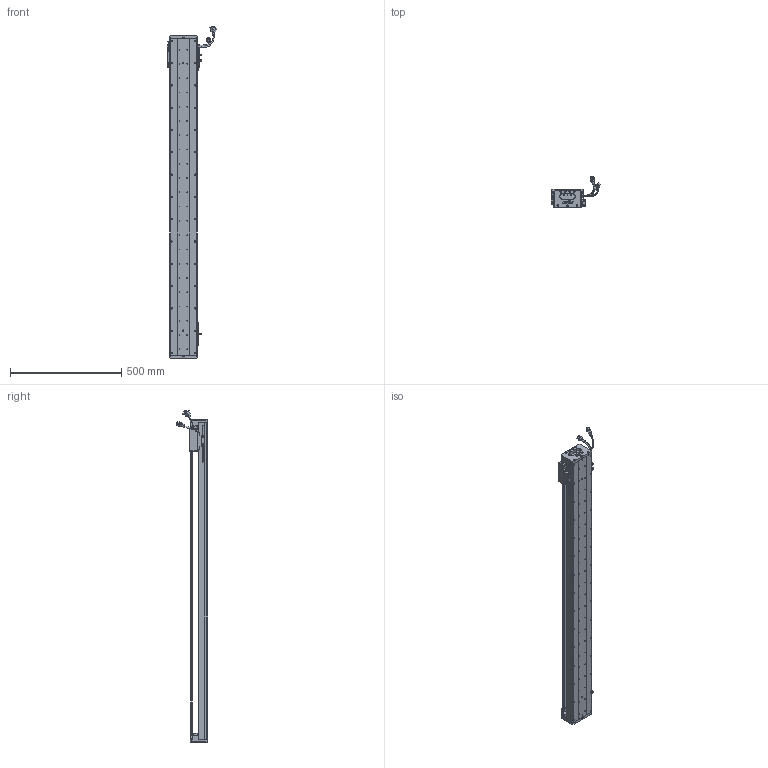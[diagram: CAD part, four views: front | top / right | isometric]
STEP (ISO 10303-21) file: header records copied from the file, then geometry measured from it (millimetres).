
FILE_DESCRIPTION (( 'STEP AP203' ), '1' );
FILE_NAME ('Z1-RY120D-1-L500-B-K.SLDASM_1250.step', '2021-05-17T03:46:52', ( '盈信电脑' ), ( '东莞市道滘镇水果街19号' ), 'SwSTEP 2.0', 'SolidWorks 2016', '' );
FILE_SCHEMA (( 'CONFIG_CONTROL_DESIGN' ));
Length unit declared in the file: millimetre
Products named in the file (37): PBU_SHEET; 140蚥薯蝶輸; SCALE-Part-1; HOLDER0; Z1-RY120D-1-L500-B-K.SLDASM_1250; HARNESS-Part-1; COVER-Part-1; PSLH080_PSLF2; Z1-RY120-500-倰第菁釱_1250; Z1-RY120铝滑块（21款）; 140雄赽晤鎢ん堤盄; RY100FB-遵嫖萇覜茼え; LABEL-Part-1; COVER; SCALE; SHIELDPLATE; SCREW-M1.7; 120-Z-臏賑輸盄裔(21遴); Z-RY120D詩湍狟揤裔; SCREW-M1.6; SCREW-M1.7-1; Z1-RY120-L500詩湍100mm遵_1250; SCREW-M1.6-1; HARNESS-Part-2; SEAL; SCREW-M1.6-2; 覜茼ん672; SEAL-Part-1; SCALE-Part-2; Z-120詩湍傷裔啣; Z-RY120D詩湍奻揤裔; LABEL; 080黍杅芛假蚾釱21遴; 672嫖萇羲壽假蚾釱; 榋妏寠巭燃_暯_M2_2; HARNESS; SCREW-M1.6-3
Assembly tree (43 placements, depth 4):
  Z1-RY120D-1-L500-B-K.SLDASM_1250
    Z1-RY120-500-倰第菁釱_1250
    覜茼ん672  x3
    672嫖萇羲壽假蚾釱  x2
    Z1-RY120铝滑块（21款）
    PSLH080_PSLF2
      SCALE
        SCALE-Part-1
        SCALE-Part-2
      HARNESS
        HARNESS-Part-1
        HARNESS-Part-2
      LABEL
        LABEL-Part-1
      COVER
        COVER-Part-1
      SEAL
        SEAL-Part-1
      榋妏寠巭燃_暯_M2_2
      SHIELDPLATE
      SCREW-M1.7
      SCREW-M1.7-1
      PBU_SHEET
      SCREW-M1.6
      SCREW-M1.6-1
      SCREW-M1.6-2
      SCREW-M1.6-3
      HOLDER0
    080黍杅芛假蚾釱21遴
    120-Z-臏賑輸盄裔(21遴)
    140雄赽晤鎢ん堤盄
    140蚥薯蝶輸  x2
    RY100FB-遵嫖萇覜茼え
    Z-120詩湍傷裔啣  x2
    Z-RY120D詩湍奻揤裔  x2
    Z-RY120D詩湍狟揤裔  x2
    Z1-RY120-L500詩湍100mm遵_1250
Bounding box: 222.88 x 140.94 x 1488.99 mm (x, y, z)
Volume: 3554613.3 mm3; surface area: 1260858.7 mm2
Topology: 38 solids, 38 shells, 2985 faces, 8240 edges, 5210 vertices
Faces by surface type: cylinder 1422, plane 1151, cone 290, torus 69, bspline 53
Entity records: 93563 total; most frequent: CARTESIAN_POINT 26668, ORIENTED_EDGE 13424, DIRECTION 12740, EDGE_CURVE 6712, AXIS2_PLACEMENT_3D 4652, VERTEX_POINT 4330, VECTOR 3436, LINE 3436
